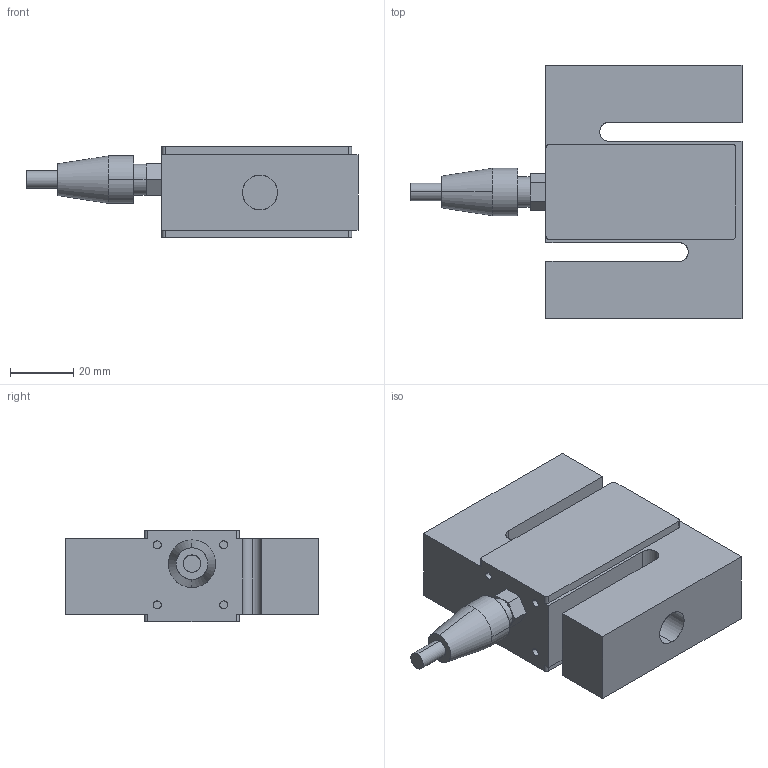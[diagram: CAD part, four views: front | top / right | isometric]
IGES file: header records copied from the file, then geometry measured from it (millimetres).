
Start section: SolidWorks IGES file using analytic representation for surfaces
Global section: file name: O:\16-Entwicklung\Projekte\03_Kraftsensoren\0227_KM1501\01_Mechanik & Gehäuse\01_Solid Works\01_Outline 3D files\3D_KM1501.IGS; native system: SolidWorks 2012; preprocessor: SolidWorks 2012; author: AndreB; date: 140722.080352; units: metre
Bounding box: 105 x 80 x 29 mm (x, y, z)
Surface area: 23525.6 mm2 (no closed solid volume)
Topology: 0 solids, 0 shells, 66 faces, 1044 edges, 1044 vertices
Faces by surface type: bspline 34, revolution 32
